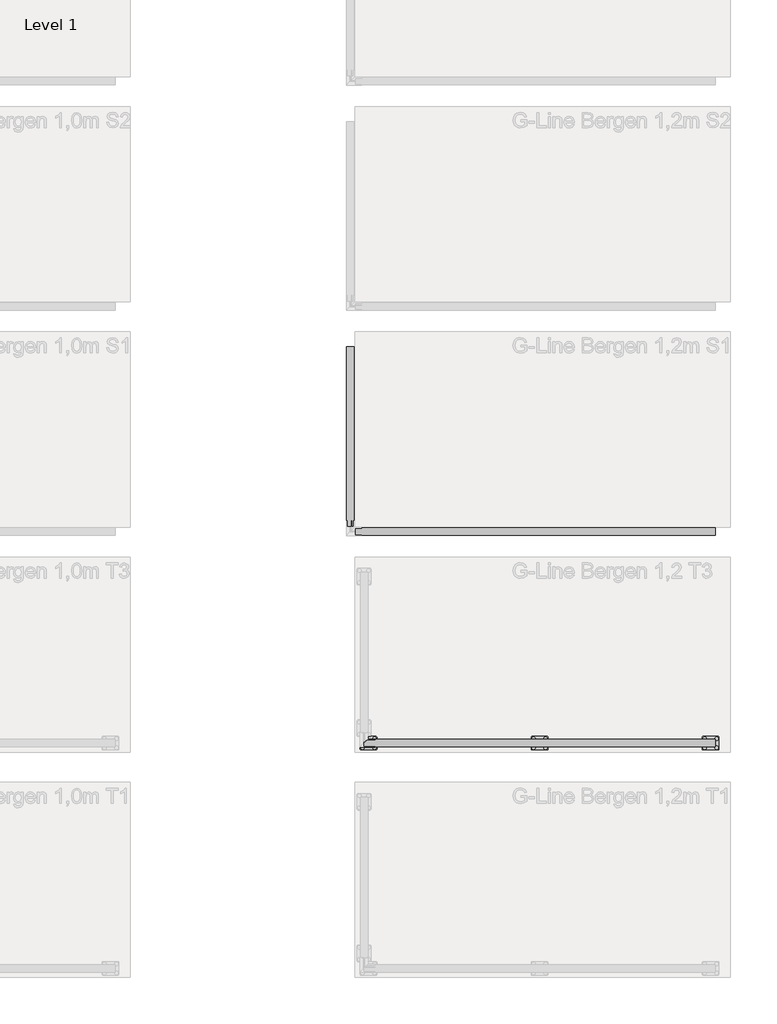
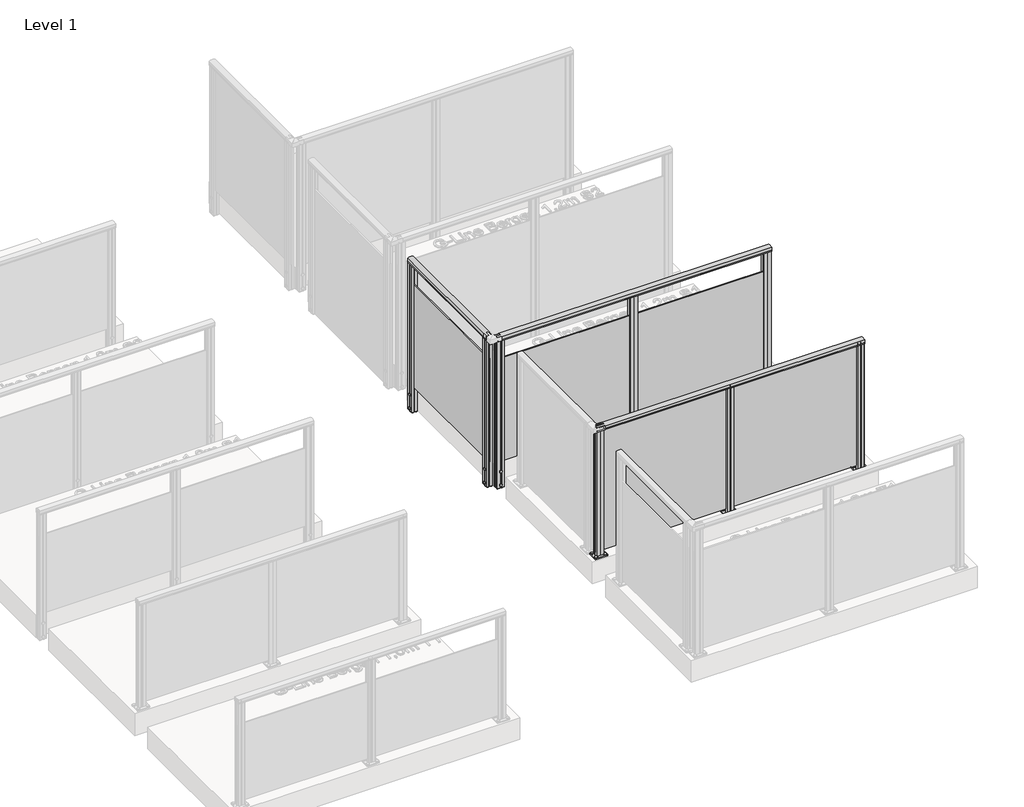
# One storey, part 21 of 66: 3 railings.
"""IFC4 building model written with IfcOpenShell, lengths in millimetres."""

from ifc_helpers import new_model, si_unit, point, frame, frame_2d, origin, origin_with_axes, place, context, project, spatial, polyline, circle_curve, trimmed, segment, composite_curve, outline, extrude, element, save

model = new_model("IFC4")

# Units and contexts
model_context = context("Model", 3, world=origin())
ifc_project = project(units=[si_unit("LENGTHUNIT", "METRE", prefix="MILLI")], contexts=[model_context])

# Site, building, storey
site = spatial("IfcSite", under=ifc_project)
building = spatial("IfcBuilding", under=site)
storey = spatial("IfcBuildingStorey", under=building, Name="Level 1", Elevation=0.0)

# Railings
placement = place(None, origin())
element("IfcRailing", 1, ObjectType="G-Line Bergen 1,2m T3", at=placement, inside=storey, context=model_context, shape_type="SweptSolid", body=[
    extrude(outline(composite_curve([segment(polyline([(-2895.1386257, 1194.1390059), (-2895.1386257, 1167.1990555), (-2895.7534087, 1166.5842725), (-2895.1386257, 1165.9694895), (-2895.1386257, 1157.2498847), (-2896.8984343, 1157.2498847), (-2896.8984343, 1180.4998829), (-2943.8934804, 1180.4998829), (-2943.8934804, 1157.2498847), (-2945.6984333, 1157.2498847), (-2945.6984333, 1165.8194895), (-2945.0763522, 1166.4415706), (-2945.658284, 1167.0235023), (-2945.658284, 1194.1342258)]), True, "CONTINUOUS"), segment(trimmed(circle_curve(frame_2d((-2920.393586, 1142.6785502)), 57.3235687), [point((-2945.658284, 1194.1342258))], [point((-2895.1386257, 1194.1390059))], False, "CARTESIAN"), True, "CONTINUOUS")], self_intersect=False)), frame((8556.5263105, 0.0, 0.0), z_axis=(1.0, 0.0, 0.0), x_axis=(0.0, 1.0, 0.0)), (0.0, 0.0, 1.0), 2340.0),
    extrude(outline(polyline([(8556.5263105, -2925.4984021), (8556.5263105, -2916.7384021), (10896.5263105, -2916.7384021), (10896.5263105, -2925.4984021), (8556.5263105, -2925.4984021)])), frame((0.0, 0.0, 40.0), z_axis=(0.0, 0.0, 1.0), x_axis=(1.0, 0.0, 0.0)), (0.0, 0.0, 1.0), 1140.0),
    extrude(outline(composite_curve([segment(trimmed(circle_curve(frame_2d((9686.5263105, -2951.1184021)), 11.9621755), [point((9686.5263105, -2963.0805775))], [point((9686.5263105, -2939.1562266))], False, "CARTESIAN"), True, "CONTINUOUS"), segment(trimmed(circle_curve(frame_2d((9686.5263105, -2951.1184021)), 11.9621755), [point((9686.5263105, -2939.1562266))], [point((9686.5263105, -2963.0805775))], False, "CARTESIAN"), True, "CONTINUOUS")], self_intersect=False)), frame((0.0, 0.0, 10.0), z_axis=(0.0, 0.0, 1.0), x_axis=(1.0, 0.0, 0.0)), (0.0, 0.0, 1.0), 5.0),
    extrude(outline(composite_curve([segment(trimmed(circle_curve(frame_2d((9686.5263105, -2891.1184021)), 11.9621755), [point((9686.5263105, -2903.0805775))], [point((9686.5263105, -2879.1562266))], False, "CARTESIAN"), True, "CONTINUOUS"), segment(trimmed(circle_curve(frame_2d((9686.5263105, -2891.1184021)), 11.9621755), [point((9686.5263105, -2879.1562266))], [point((9686.5263105, -2903.0805775))], False, "CARTESIAN"), True, "CONTINUOUS")], self_intersect=False)), frame((0.0, 0.0, 10.0), z_axis=(0.0, 0.0, 1.0), x_axis=(1.0, 0.0, 0.0)), (0.0, 0.0, 1.0), 5.0),
    extrude(outline(composite_curve([segment(trimmed(circle_curve(frame_2d((9766.5263105, -2951.1184021)), 11.9621755), [point((9766.5263105, -2963.0805775))], [point((9766.5263105, -2939.1562266))], False, "CARTESIAN"), True, "CONTINUOUS"), segment(trimmed(circle_curve(frame_2d((9766.5263105, -2951.1184021)), 11.9621755), [point((9766.5263105, -2939.1562266))], [point((9766.5263105, -2963.0805775))], False, "CARTESIAN"), True, "CONTINUOUS")], self_intersect=False)), frame((0.0, 0.0, 10.0), z_axis=(0.0, 0.0, 1.0), x_axis=(1.0, 0.0, 0.0)), (0.0, 0.0, 1.0), 5.0),
    extrude(outline(composite_curve([segment(trimmed(circle_curve(frame_2d((9766.5263105, -2891.1184021)), 11.9621755), [point((9766.5263105, -2903.0805775))], [point((9766.5263105, -2879.1562266))], False, "CARTESIAN"), True, "CONTINUOUS"), segment(trimmed(circle_curve(frame_2d((9766.5263105, -2891.1184021)), 11.9621755), [point((9766.5263105, -2879.1562266))], [point((9766.5263105, -2903.0805775))], False, "CARTESIAN"), True, "CONTINUOUS")], self_intersect=False)), frame((0.0, 0.0, 10.0), z_axis=(0.0, 0.0, 1.0), x_axis=(1.0, 0.0, 0.0)), (0.0, 0.0, 1.0), 5.0),
    extrude(outline(composite_curve([segment(trimmed(circle_curve(frame_2d((9676.5263105, -2881.1184021)), 5.0), [point((9671.5263105, -2881.1184021))], [point((9676.5263105, -2876.1184021))], False, "CARTESIAN"), True, "CONTINUOUS"), segment(polyline([(9676.5263105, -2876.1184021), (9776.5263105, -2876.1184021)]), True, "CONTINUOUS"), segment(trimmed(circle_curve(frame_2d((9776.5263105, -2881.1184021)), 5.0), [point((9776.5263105, -2876.1184021))], [point((9781.5263105, -2881.1184021))], False, "CARTESIAN"), True, "CONTINUOUS"), segment(polyline([(9781.5263105, -2881.1184021), (9781.5263105, -2961.1184021)]), True, "CONTINUOUS"), segment(trimmed(circle_curve(frame_2d((9776.5263105, -2961.1184021)), 5.0), [point((9781.5263105, -2961.1184021))], [point((9776.5263105, -2966.1184021))], False, "CARTESIAN"), True, "CONTINUOUS"), segment(polyline([(9776.5263105, -2966.1184021), (9676.5263105, -2966.1184021)]), True, "CONTINUOUS"), segment(trimmed(circle_curve(frame_2d((9676.5263105, -2961.1184021)), 5.0), [point((9676.5263105, -2966.1184021))], [point((9671.5263105, -2961.1184021))], False, "CARTESIAN"), True, "CONTINUOUS"), segment(polyline([(9671.5263105, -2961.1184021), (9671.5263105, -2881.1184021)]), True, "CONTINUOUS")], self_intersect=False), holes=[composite_curve([segment(trimmed(circle_curve(frame_2d((9686.5263105, -2891.1184021)), 6.25), [point((9686.5263105, -2897.3684021))], [point((9686.5263105, -2884.8684021))], True, "CARTESIAN"), True, "CONTINUOUS"), segment(trimmed(circle_curve(frame_2d((9686.5263105, -2891.1184021)), 6.25), [point((9686.5263105, -2884.8684021))], [point((9686.5263105, -2897.3684021))], True, "CARTESIAN"), True, "CONTINUOUS")], self_intersect=False), composite_curve([segment(trimmed(circle_curve(frame_2d((9686.5263105, -2951.1184021)), 6.25), [point((9686.5263105, -2957.3684021))], [point((9686.5263105, -2944.8684021))], True, "CARTESIAN"), True, "CONTINUOUS"), segment(trimmed(circle_curve(frame_2d((9686.5263105, -2951.1184021)), 6.25), [point((9686.5263105, -2944.8684021))], [point((9686.5263105, -2957.3684021))], True, "CARTESIAN"), True, "CONTINUOUS")], self_intersect=False), composite_curve([segment(trimmed(circle_curve(frame_2d((9766.5263105, -2951.1184021)), 6.25), [point((9766.5263105, -2957.3684021))], [point((9766.5263105, -2944.8684021))], True, "CARTESIAN"), True, "CONTINUOUS"), segment(trimmed(circle_curve(frame_2d((9766.5263105, -2951.1184021)), 6.25), [point((9766.5263105, -2944.8684021))], [point((9766.5263105, -2957.3684021))], True, "CARTESIAN"), True, "CONTINUOUS")], self_intersect=False), composite_curve([segment(trimmed(circle_curve(frame_2d((9766.5263105, -2891.1184021)), 6.25), [point((9766.5263105, -2897.3684021))], [point((9766.5263105, -2884.8684021))], True, "CARTESIAN"), True, "CONTINUOUS"), segment(trimmed(circle_curve(frame_2d((9766.5263105, -2891.1184021)), 6.25), [point((9766.5263105, -2884.8684021))], [point((9766.5263105, -2897.3684021))], True, "CARTESIAN"), True, "CONTINUOUS")], self_intersect=False)]), origin_with_axes(), (0.0, 0.0, 1.0), 10.0),
    extrude(outline(polyline([(9756.5247174, -2925.464264), (9756.5273896, -2943.6092639), (9727.5604026, -2943.6135298), (9726.5319584, -2942.5853885), (9725.5438599, -2943.5737781), (9696.5273844, -2943.5780513), (9696.5247181, -2925.4731002), (9714.0247179, -2925.470523), (9714.0234278, -2916.7105231), (9696.523428, -2916.7131003), (9696.5207632, -2898.6181005), (9725.4877501, -2898.6138345), (9726.525618, -2899.5321669), (9727.4037815, -2898.6537448), (9756.5207684, -2898.6494567), (9756.5234273, -2916.7042641), (9739.0234275, -2916.7068414), (9739.0247176, -2925.4668413), (9756.5247174, -2925.464264)]), holes=[polyline([(9717.7270955, -2900.6123864), (9717.7270955, -2941.6149779), (9735.3210573, -2941.6149779), (9735.3210573, -2900.6123864), (9717.7270955, -2900.6123864)]), polyline([(9698.5270957, -2927.4702726), (9698.5270957, -2941.6178055), (9715.7250124, -2941.6178055), (9715.7250124, -2927.4702726), (9698.5270957, -2927.4702726)]), polyline([(9698.5231335, -2900.6123864), (9698.5231335, -2914.7128058), (9715.7210571, -2914.7128058), (9715.7210571, -2900.6123864), (9698.5231335, -2900.6123864)]), polyline([(9737.3270953, -2927.4645586), (9737.3270953, -2941.6120914), (9754.525012, -2941.6120914), (9754.525012, -2927.4645586), (9737.3270953, -2927.4645586)]), polyline([(9737.323133, -2900.5595589), (9737.323133, -2914.7070917), (9754.5210497, -2914.7070917), (9754.5210497, -2900.5595589), (9737.323133, -2900.5595589)])]), frame((0.0, 0.0, 10.0), z_axis=(0.0, 0.0, 1.0), x_axis=(1.0, 0.0, 0.0)), (0.0, 0.0, 1.0), 1171.0),
    extrude(outline(composite_curve([segment(trimmed(circle_curve(frame_2d((10826.5263105, -2951.1184021)), 11.9621755), [point((10826.5263105, -2963.0805775))], [point((10826.5263105, -2939.1562266))], False, "CARTESIAN"), True, "CONTINUOUS"), segment(trimmed(circle_curve(frame_2d((10826.5263105, -2951.1184021)), 11.9621755), [point((10826.5263105, -2939.1562266))], [point((10826.5263105, -2963.0805775))], False, "CARTESIAN"), True, "CONTINUOUS")], self_intersect=False)), frame((0.0, 0.0, 10.0), z_axis=(0.0, 0.0, 1.0), x_axis=(1.0, 0.0, 0.0)), (0.0, 0.0, 1.0), 5.0),
    extrude(outline(composite_curve([segment(trimmed(circle_curve(frame_2d((10826.5263105, -2891.1184021)), 11.9621755), [point((10826.5263105, -2903.0805775))], [point((10826.5263105, -2879.1562266))], False, "CARTESIAN"), True, "CONTINUOUS"), segment(trimmed(circle_curve(frame_2d((10826.5263105, -2891.1184021)), 11.9621755), [point((10826.5263105, -2879.1562266))], [point((10826.5263105, -2903.0805775))], False, "CARTESIAN"), True, "CONTINUOUS")], self_intersect=False)), frame((0.0, 0.0, 10.0), z_axis=(0.0, 0.0, 1.0), x_axis=(1.0, 0.0, 0.0)), (0.0, 0.0, 1.0), 5.0),
    extrude(outline(composite_curve([segment(trimmed(circle_curve(frame_2d((10906.5263105, -2951.1184021)), 11.9621755), [point((10906.5263105, -2963.0805775))], [point((10906.5263105, -2939.1562266))], False, "CARTESIAN"), True, "CONTINUOUS"), segment(trimmed(circle_curve(frame_2d((10906.5263105, -2951.1184021)), 11.9621755), [point((10906.5263105, -2939.1562266))], [point((10906.5263105, -2963.0805775))], False, "CARTESIAN"), True, "CONTINUOUS")], self_intersect=False)), frame((0.0, 0.0, 10.0), z_axis=(0.0, 0.0, 1.0), x_axis=(1.0, 0.0, 0.0)), (0.0, 0.0, 1.0), 5.0),
    extrude(outline(composite_curve([segment(trimmed(circle_curve(frame_2d((10906.5263105, -2891.1184021)), 11.9621755), [point((10906.5263105, -2903.0805775))], [point((10906.5263105, -2879.1562266))], False, "CARTESIAN"), True, "CONTINUOUS"), segment(trimmed(circle_curve(frame_2d((10906.5263105, -2891.1184021)), 11.9621755), [point((10906.5263105, -2879.1562266))], [point((10906.5263105, -2903.0805775))], False, "CARTESIAN"), True, "CONTINUOUS")], self_intersect=False)), frame((0.0, 0.0, 10.0), z_axis=(0.0, 0.0, 1.0), x_axis=(1.0, 0.0, 0.0)), (0.0, 0.0, 1.0), 5.0),
    extrude(outline(composite_curve([segment(trimmed(circle_curve(frame_2d((10816.5263105, -2881.1184021)), 5.0), [point((10811.5263105, -2881.1184021))], [point((10816.5263105, -2876.1184021))], False, "CARTESIAN"), True, "CONTINUOUS"), segment(polyline([(10816.5263105, -2876.1184021), (10916.5263105, -2876.1184021)]), True, "CONTINUOUS"), segment(trimmed(circle_curve(frame_2d((10916.5263105, -2881.1184021)), 5.0), [point((10916.5263105, -2876.1184021))], [point((10921.5263105, -2881.1184021))], False, "CARTESIAN"), True, "CONTINUOUS"), segment(polyline([(10921.5263105, -2881.1184021), (10921.5263105, -2961.1184021)]), True, "CONTINUOUS"), segment(trimmed(circle_curve(frame_2d((10916.5263105, -2961.1184021)), 5.0), [point((10921.5263105, -2961.1184021))], [point((10916.5263105, -2966.1184021))], False, "CARTESIAN"), True, "CONTINUOUS"), segment(polyline([(10916.5263105, -2966.1184021), (10816.5263105, -2966.1184021)]), True, "CONTINUOUS"), segment(trimmed(circle_curve(frame_2d((10816.5263105, -2961.1184021)), 5.0), [point((10816.5263105, -2966.1184021))], [point((10811.5263105, -2961.1184021))], False, "CARTESIAN"), True, "CONTINUOUS"), segment(polyline([(10811.5263105, -2961.1184021), (10811.5263105, -2881.1184021)]), True, "CONTINUOUS")], self_intersect=False), holes=[composite_curve([segment(trimmed(circle_curve(frame_2d((10826.5263105, -2891.1184021)), 6.25), [point((10826.5263105, -2897.3684021))], [point((10826.5263105, -2884.8684021))], True, "CARTESIAN"), True, "CONTINUOUS"), segment(trimmed(circle_curve(frame_2d((10826.5263105, -2891.1184021)), 6.25), [point((10826.5263105, -2884.8684021))], [point((10826.5263105, -2897.3684021))], True, "CARTESIAN"), True, "CONTINUOUS")], self_intersect=False), composite_curve([segment(trimmed(circle_curve(frame_2d((10826.5263105, -2951.1184021)), 6.25), [point((10826.5263105, -2957.3684021))], [point((10826.5263105, -2944.8684021))], True, "CARTESIAN"), True, "CONTINUOUS"), segment(trimmed(circle_curve(frame_2d((10826.5263105, -2951.1184021)), 6.25), [point((10826.5263105, -2944.8684021))], [point((10826.5263105, -2957.3684021))], True, "CARTESIAN"), True, "CONTINUOUS")], self_intersect=False), composite_curve([segment(trimmed(circle_curve(frame_2d((10906.5263105, -2951.1184021)), 6.25), [point((10906.5263105, -2957.3684021))], [point((10906.5263105, -2944.8684021))], True, "CARTESIAN"), True, "CONTINUOUS"), segment(trimmed(circle_curve(frame_2d((10906.5263105, -2951.1184021)), 6.25), [point((10906.5263105, -2944.8684021))], [point((10906.5263105, -2957.3684021))], True, "CARTESIAN"), True, "CONTINUOUS")], self_intersect=False), composite_curve([segment(trimmed(circle_curve(frame_2d((10906.5263105, -2891.1184021)), 6.25), [point((10906.5263105, -2897.3684021))], [point((10906.5263105, -2884.8684021))], True, "CARTESIAN"), True, "CONTINUOUS"), segment(trimmed(circle_curve(frame_2d((10906.5263105, -2891.1184021)), 6.25), [point((10906.5263105, -2884.8684021))], [point((10906.5263105, -2897.3684021))], True, "CARTESIAN"), True, "CONTINUOUS")], self_intersect=False)]), origin_with_axes(), (0.0, 0.0, 1.0), 10.0),
    extrude(outline(polyline([(10896.5247174, -2925.4642641), (10896.5273896, -2943.6092639), (10867.5604026, -2943.6135298), (10866.5319584, -2942.5853885), (10865.5438599, -2943.5737781), (10836.5273844, -2943.5780513), (10836.5247181, -2925.4731002), (10854.0247179, -2925.470523), (10854.0234278, -2916.7105231), (10836.523428, -2916.7131003), (10836.5207632, -2898.6181005), (10865.4877501, -2898.6138345), (10866.525618, -2899.5321669), (10867.4037815, -2898.6537448), (10896.5207684, -2898.6494567), (10896.5234273, -2916.7042641), (10879.0234275, -2916.7068414), (10879.0247176, -2925.4668413), (10896.5247174, -2925.4642641)]), holes=[polyline([(10857.7270955, -2900.6123864), (10857.7270955, -2941.6149779), (10875.3210573, -2941.6149779), (10875.3210573, -2900.6123864), (10857.7270955, -2900.6123864)]), polyline([(10838.5270957, -2927.4702726), (10838.5270957, -2941.6178055), (10855.7250124, -2941.6178055), (10855.7250124, -2927.4702726), (10838.5270957, -2927.4702726)]), polyline([(10838.5231335, -2900.6123864), (10838.5231335, -2914.7128058), (10855.7210571, -2914.7128058), (10855.7210571, -2900.6123864), (10838.5231335, -2900.6123864)]), polyline([(10877.3270953, -2927.4645586), (10877.3270953, -2941.6120914), (10894.525012, -2941.6120914), (10894.525012, -2927.4645586), (10877.3270953, -2927.4645586)]), polyline([(10877.323133, -2900.5595589), (10877.323133, -2914.7070917), (10894.5210497, -2914.7070917), (10894.5210497, -2900.5595589), (10877.323133, -2900.5595589)])]), frame((0.0, 0.0, 10.0), z_axis=(0.0, 0.0, 1.0), x_axis=(1.0, 0.0, 0.0)), (0.0, 0.0, 1.0), 1171.0),
    extrude(outline(composite_curve([segment(trimmed(circle_curve(frame_2d((8546.5263105, -2951.1184021)), 11.9621755), [point((8546.5263105, -2963.0805775))], [point((8546.5263105, -2939.1562266))], False, "CARTESIAN"), True, "CONTINUOUS"), segment(trimmed(circle_curve(frame_2d((8546.5263105, -2951.1184021)), 11.9621755), [point((8546.5263105, -2939.1562266))], [point((8546.5263105, -2963.0805775))], False, "CARTESIAN"), True, "CONTINUOUS")], self_intersect=False)), frame((0.0, 0.0, 10.0), z_axis=(0.0, 0.0, 1.0), x_axis=(1.0, 0.0, 0.0)), (0.0, 0.0, 1.0), 5.0),
    extrude(outline(composite_curve([segment(trimmed(circle_curve(frame_2d((8546.5263105, -2891.1184021)), 11.9621755), [point((8546.5263105, -2903.0805775))], [point((8546.5263105, -2879.1562266))], False, "CARTESIAN"), True, "CONTINUOUS"), segment(trimmed(circle_curve(frame_2d((8546.5263105, -2891.1184021)), 11.9621755), [point((8546.5263105, -2879.1562266))], [point((8546.5263105, -2903.0805775))], False, "CARTESIAN"), True, "CONTINUOUS")], self_intersect=False)), frame((0.0, 0.0, 10.0), z_axis=(0.0, 0.0, 1.0), x_axis=(1.0, 0.0, 0.0)), (0.0, 0.0, 1.0), 5.0),
    extrude(outline(composite_curve([segment(trimmed(circle_curve(frame_2d((8626.5263105, -2951.1184021)), 11.9621755), [point((8626.5263105, -2963.0805775))], [point((8626.5263105, -2939.1562266))], False, "CARTESIAN"), True, "CONTINUOUS"), segment(trimmed(circle_curve(frame_2d((8626.5263105, -2951.1184021)), 11.9621755), [point((8626.5263105, -2939.1562266))], [point((8626.5263105, -2963.0805775))], False, "CARTESIAN"), True, "CONTINUOUS")], self_intersect=False)), frame((0.0, 0.0, 10.0), z_axis=(0.0, 0.0, 1.0), x_axis=(1.0, 0.0, 0.0)), (0.0, 0.0, 1.0), 5.0),
    extrude(outline(composite_curve([segment(trimmed(circle_curve(frame_2d((8626.5263105, -2891.1184021)), 11.9621755), [point((8626.5263105, -2903.0805775))], [point((8626.5263105, -2879.1562266))], False, "CARTESIAN"), True, "CONTINUOUS"), segment(trimmed(circle_curve(frame_2d((8626.5263105, -2891.1184021)), 11.9621755), [point((8626.5263105, -2879.1562266))], [point((8626.5263105, -2903.0805775))], False, "CARTESIAN"), True, "CONTINUOUS")], self_intersect=False)), frame((0.0, 0.0, 10.0), z_axis=(0.0, 0.0, 1.0), x_axis=(1.0, 0.0, 0.0)), (0.0, 0.0, 1.0), 5.0),
    extrude(outline(composite_curve([segment(trimmed(circle_curve(frame_2d((8536.5263105, -2881.1184021)), 5.0), [point((8531.5263105, -2881.1184021))], [point((8536.5263105, -2876.1184021))], False, "CARTESIAN"), True, "CONTINUOUS"), segment(polyline([(8536.5263105, -2876.1184021), (8636.5263105, -2876.1184021)]), True, "CONTINUOUS"), segment(trimmed(circle_curve(frame_2d((8636.5263105, -2881.1184021)), 5.0), [point((8636.5263105, -2876.1184021))], [point((8641.5263105, -2881.1184021))], False, "CARTESIAN"), True, "CONTINUOUS"), segment(polyline([(8641.5263105, -2881.1184021), (8641.5263105, -2961.1184021)]), True, "CONTINUOUS"), segment(trimmed(circle_curve(frame_2d((8636.5263105, -2961.1184021)), 5.0), [point((8641.5263105, -2961.1184021))], [point((8636.5263105, -2966.1184021))], False, "CARTESIAN"), True, "CONTINUOUS"), segment(polyline([(8636.5263105, -2966.1184021), (8536.5263105, -2966.1184021)]), True, "CONTINUOUS"), segment(trimmed(circle_curve(frame_2d((8536.5263105, -2961.1184021)), 5.0), [point((8536.5263105, -2966.1184021))], [point((8531.5263105, -2961.1184021))], False, "CARTESIAN"), True, "CONTINUOUS"), segment(polyline([(8531.5263105, -2961.1184021), (8531.5263105, -2881.1184021)]), True, "CONTINUOUS")], self_intersect=False), holes=[composite_curve([segment(trimmed(circle_curve(frame_2d((8546.5263105, -2891.1184021)), 6.25), [point((8546.5263105, -2897.3684021))], [point((8546.5263105, -2884.8684021))], True, "CARTESIAN"), True, "CONTINUOUS"), segment(trimmed(circle_curve(frame_2d((8546.5263105, -2891.1184021)), 6.25), [point((8546.5263105, -2884.8684021))], [point((8546.5263105, -2897.3684021))], True, "CARTESIAN"), True, "CONTINUOUS")], self_intersect=False), composite_curve([segment(trimmed(circle_curve(frame_2d((8546.5263105, -2951.1184021)), 6.25), [point((8546.5263105, -2957.3684021))], [point((8546.5263105, -2944.8684021))], True, "CARTESIAN"), True, "CONTINUOUS"), segment(trimmed(circle_curve(frame_2d((8546.5263105, -2951.1184021)), 6.25), [point((8546.5263105, -2944.8684021))], [point((8546.5263105, -2957.3684021))], True, "CARTESIAN"), True, "CONTINUOUS")], self_intersect=False), composite_curve([segment(trimmed(circle_curve(frame_2d((8626.5263105, -2951.1184021)), 6.25), [point((8626.5263105, -2957.3684021))], [point((8626.5263105, -2944.8684021))], True, "CARTESIAN"), True, "CONTINUOUS"), segment(trimmed(circle_curve(frame_2d((8626.5263105, -2951.1184021)), 6.25), [point((8626.5263105, -2944.8684021))], [point((8626.5263105, -2957.3684021))], True, "CARTESIAN"), True, "CONTINUOUS")], self_intersect=False), composite_curve([segment(trimmed(circle_curve(frame_2d((8626.5263105, -2891.1184021)), 6.25), [point((8626.5263105, -2897.3684021))], [point((8626.5263105, -2884.8684021))], True, "CARTESIAN"), True, "CONTINUOUS"), segment(trimmed(circle_curve(frame_2d((8626.5263105, -2891.1184021)), 6.25), [point((8626.5263105, -2884.8684021))], [point((8626.5263105, -2897.3684021))], True, "CARTESIAN"), True, "CONTINUOUS")], self_intersect=False)]), origin_with_axes(), (0.0, 0.0, 1.0), 10.0),
    extrude(outline(polyline([(8616.5247174, -2925.464264), (8616.5273896, -2943.6092639), (8587.5604026, -2943.6135298), (8586.5319584, -2942.5853885), (8585.5438599, -2943.5737781), (8556.5273844, -2943.5780513), (8556.5247181, -2925.4731002), (8574.0247179, -2925.470523), (8574.0234278, -2916.7105231), (8556.523428, -2916.7131003), (8556.5207632, -2898.6181005), (8585.4877501, -2898.6138345), (8586.525618, -2899.5321669), (8587.4037815, -2898.6537448), (8616.5207684, -2898.6494567), (8616.5234273, -2916.7042641), (8599.0234275, -2916.7068413), (8599.0247176, -2925.4668413), (8616.5247174, -2925.464264)]), holes=[polyline([(8577.7270955, -2900.6123864), (8577.7270955, -2941.6149779), (8595.3210573, -2941.6149779), (8595.3210573, -2900.6123864), (8577.7270955, -2900.6123864)]), polyline([(8558.5270957, -2927.4702726), (8558.5270957, -2941.6178055), (8575.7250124, -2941.6178055), (8575.7250124, -2927.4702726), (8558.5270957, -2927.4702726)]), polyline([(8558.5231335, -2900.6123864), (8558.5231335, -2914.7128058), (8575.7210571, -2914.7128058), (8575.7210571, -2900.6123864), (8558.5231335, -2900.6123864)]), polyline([(8597.3270953, -2927.4645586), (8597.3270953, -2941.6120914), (8614.525012, -2941.6120914), (8614.525012, -2927.4645586), (8597.3270953, -2927.4645586)]), polyline([(8597.323133, -2900.5595589), (8597.323133, -2914.7070917), (8614.5210497, -2914.7070917), (8614.5210497, -2900.5595589), (8597.323133, -2900.5595589)])]), frame((0.0, 0.0, 10.0), z_axis=(0.0, 0.0, 1.0), x_axis=(1.0, 0.0, 0.0)), (0.0, 0.0, 1.0), 1171.0),
])
element("IfcRailing", 2, ObjectType="G-Line Bergen 1,2m S1", at=placement, inside=storey, context=model_context, shape_type="SweptSolid", body=[
    extrude(outline(composite_curve([segment(trimmed(circle_curve(frame_2d((1142.6785502, 8465.8109342)), 57.3235687), [point((1194.1390059, 8491.0658945))], [point((1194.1342258, 8440.5462362))], False, "CARTESIAN"), True, "CONTINUOUS"), segment(polyline([(1194.1342258, 8440.5462362), (1167.0235023, 8440.5462362), (1166.4415706, 8441.128168), (1165.8194895, 8440.5060869), (1157.2498847, 8440.5060869), (1157.2498847, 8442.3110398), (1180.4998829, 8442.3110398), (1180.4998829, 8489.306086), (1157.2498847, 8489.306086), (1157.2498847, 8491.0658945), (1165.9694895, 8491.0658945), (1166.5842725, 8490.4511115), (1167.1990555, 8491.0658945), (1194.1390059, 8491.0658945)]), True, "CONTINUOUS")], self_intersect=False)), frame((0.0, -1476.1184021, 0.0), z_axis=(0.0, 1.0, 0.0), x_axis=(0.0, 0.0, 1.0)), (0.0, 0.0, 1.0), 1195.0),
    extrude(outline(polyline([(8462.1463105, -281.1184021), (8470.9063105, -281.1184021), (8470.9063105, -1476.1184021), (8462.1463105, -1476.1184021), (8462.1463105, -281.1184021)])), frame((0.0, 0.0, 28.0), z_axis=(0.0, 0.0, 1.0), x_axis=(1.0, 0.0, 0.0)), (0.0, 0.0, 1.0), 952.0),
    extrude(outline(polyline([(8470.8721725, -1476.116809), (8470.8747497, -1458.6168092), (8462.1147498, -1458.6155191), (8462.1121726, -1476.1155189), (8444.0573652, -1476.11286), (8444.0616532, -1446.995873), (8444.9400753, -1446.1177096), (8444.021743, -1445.0798417), (8444.0260089, -1416.1128548), (8462.1210087, -1416.1155196), (8462.1184315, -1433.6155194), (8470.8784314, -1433.6168095), (8470.8810086, -1416.1168097), (8488.9859597, -1416.119476), (8488.9816865, -1445.1359515), (8487.9932969, -1446.12405), (8489.0214382, -1447.1524942), (8489.0171723, -1476.1194812), (8470.8721725, -1476.116809)]), holes=[polyline([(8446.0202949, -1437.3191871), (8446.0202949, -1454.9131488), (8487.0228863, -1454.9131488), (8487.0228863, -1437.3191871), (8446.0202949, -1437.3191871)]), polyline([(8472.878181, -1418.1191873), (8472.878181, -1435.317104), (8487.0257139, -1435.317104), (8487.0257139, -1418.1191873), (8472.878181, -1418.1191873)]), polyline([(8446.0202949, -1418.115225), (8446.0202949, -1435.3131487), (8460.1207142, -1435.3131487), (8460.1207142, -1418.115225), (8446.0202949, -1418.115225)]), polyline([(8472.872467, -1456.9191868), (8472.872467, -1474.1171035), (8487.0199999, -1474.1171035), (8487.0199999, -1456.9191868), (8472.872467, -1456.9191868)]), polyline([(8445.9674673, -1456.9152246), (8445.9674673, -1474.1131413), (8460.1150002, -1474.1131413), (8460.1150002, -1456.9152246), (8445.9674673, -1456.9152246)])]), frame((0.0, 0.0, -200.0), z_axis=(0.0, 0.0, 1.0), x_axis=(1.0, 0.0, 0.0)), (0.0, 0.0, 1.0), 1381.0),
    extrude(outline(polyline([(8470.8721725, -1476.116809), (8470.8747497, -1458.6168092), (8462.1147498, -1458.6155191), (8462.1121726, -1476.1155189), (8444.0573652, -1476.11286), (8444.0616532, -1446.995873), (8444.9400753, -1446.1177096), (8444.021743, -1445.0798417), (8444.0260089, -1416.1128548), (8462.1210087, -1416.1155196), (8462.1184315, -1433.6155194), (8470.8784314, -1433.6168095), (8470.8810086, -1416.1168097), (8488.9859597, -1416.119476), (8488.9816865, -1445.1359515), (8487.9932969, -1446.12405), (8489.0214382, -1447.1524942), (8489.0171723, -1476.1194812), (8470.8721725, -1476.116809)])), frame((0.0, 0.0, -202.0233958), z_axis=(0.0, 0.0, 1.0), x_axis=(1.0, 0.0, 0.0)), (0.0, 0.0, 1.0), 2.0),
    extrude(outline(composite_curve([segment(trimmed(circle_curve(frame_2d((0.0, 12.0)), 12.0), [point((0.0, 23.9999999))], [point((0.0, 0.0))], False, "CARTESIAN"), True, "CONTINUOUS"), segment(trimmed(circle_curve(frame_2d((0.0, 12.0)), 12.0), [point((0.0, 0.0))], [point((0.0, 23.9999999))], False, "CARTESIAN"), True, "CONTINUOUS")], self_intersect=False)), frame((8444.0668454, -1434.1093645, -175.0), z_axis=(-0.9999999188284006, 0.0004029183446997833, 0.0), x_axis=(0.0, 0.0, -1.0)), (0.0, 0.0, 1.0), 3.0757477),
    extrude(outline(composite_curve([segment(trimmed(circle_curve(frame_2d((0.0, 12.0)), 12.0), [point((0.0, 23.9999999))], [point((0.0, 0.0))], False, "CARTESIAN"), True, "CONTINUOUS"), segment(trimmed(circle_curve(frame_2d((0.0, 12.0)), 12.0), [point((0.0, 0.0))], [point((0.0, 23.9999999))], False, "CARTESIAN"), True, "CONTINUOUS")], self_intersect=False)), frame((8444.0668454, -1434.1093645, -50.0), z_axis=(-0.9999999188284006, 0.0004029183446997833, 0.0), x_axis=(0.0, 0.0, -1.0)), (0.0, 0.0, 1.0), 3.0757477),
    extrude(outline(polyline([(8470.8721725, -341.116809), (8470.8747497, -323.6168092), (8462.1147498, -323.6155191), (8462.1121726, -341.1155189), (8444.0573652, -341.11286), (8444.0616532, -311.995873), (8444.9400753, -311.1177096), (8444.021743, -310.0798417), (8444.0260089, -281.1128548), (8462.1210087, -281.1155196), (8462.1184315, -298.6155194), (8470.8784314, -298.6168095), (8470.8810086, -281.1168097), (8488.9859597, -281.119476), (8488.9816865, -310.1359515), (8487.9932969, -311.12405), (8489.0214382, -312.1524942), (8489.0171723, -341.1194812), (8470.8721725, -341.116809)]), holes=[polyline([(8446.0202949, -302.3191871), (8446.0202949, -319.9131488), (8487.0228863, -319.9131488), (8487.0228863, -302.3191871), (8446.0202949, -302.3191871)]), polyline([(8472.878181, -283.1191873), (8472.878181, -300.317104), (8487.0257139, -300.317104), (8487.0257139, -283.1191873), (8472.878181, -283.1191873)]), polyline([(8446.0202949, -283.115225), (8446.0202949, -300.3131487), (8460.1207142, -300.3131487), (8460.1207142, -283.115225), (8446.0202949, -283.115225)]), polyline([(8472.872467, -321.9191868), (8472.872467, -339.1171035), (8487.0199999, -339.1171035), (8487.0199999, -321.9191868), (8472.872467, -321.9191868)]), polyline([(8445.9674673, -321.9152246), (8445.9674673, -339.1131413), (8460.1150002, -339.1131413), (8460.1150002, -321.9152246), (8445.9674673, -321.9152246)])]), frame((0.0, 0.0, -200.0), z_axis=(0.0, 0.0, 1.0), x_axis=(1.0, 0.0, 0.0)), (0.0, 0.0, 1.0), 1381.0),
    extrude(outline(polyline([(8470.8721725, -341.116809), (8470.8747497, -323.6168092), (8462.1147498, -323.6155191), (8462.1121726, -341.1155189), (8444.0573652, -341.11286), (8444.0616532, -311.995873), (8444.9400753, -311.1177096), (8444.021743, -310.0798417), (8444.0260089, -281.1128548), (8462.1210087, -281.1155196), (8462.1184315, -298.6155194), (8470.8784314, -298.6168095), (8470.8810086, -281.1168097), (8488.9859597, -281.119476), (8488.9816865, -310.1359515), (8487.9932969, -311.12405), (8489.0214382, -312.1524942), (8489.0171723, -341.1194812), (8470.8721725, -341.116809)])), frame((0.0, 0.0, -202.0233958), z_axis=(0.0, 0.0, 1.0), x_axis=(1.0, 0.0, 0.0)), (0.0, 0.0, 1.0), 2.0),
    extrude(outline(composite_curve([segment(trimmed(circle_curve(frame_2d((0.0, 12.0)), 12.0), [point((0.0, 23.9999999))], [point((0.0, 0.0))], False, "CARTESIAN"), True, "CONTINUOUS"), segment(trimmed(circle_curve(frame_2d((0.0, 12.0)), 12.0), [point((0.0, 0.0))], [point((0.0, 23.9999999))], False, "CARTESIAN"), True, "CONTINUOUS")], self_intersect=False)), frame((8444.0668454, -299.1093645, -175.0), z_axis=(-0.9999999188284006, 0.0004029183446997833, 0.0), x_axis=(0.0, 0.0, -1.0)), (0.0, 0.0, 1.0), 3.0757477),
    extrude(outline(composite_curve([segment(trimmed(circle_curve(frame_2d((0.0, 12.0)), 12.0), [point((0.0, 23.9999999))], [point((0.0, 0.0))], False, "CARTESIAN"), True, "CONTINUOUS"), segment(trimmed(circle_curve(frame_2d((0.0, 12.0)), 12.0), [point((0.0, 0.0))], [point((0.0, 23.9999999))], False, "CARTESIAN"), True, "CONTINUOUS")], self_intersect=False)), frame((8444.0668454, -299.1093645, -50.0), z_axis=(-0.9999999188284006, 0.0004029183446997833, 0.0), x_axis=(0.0, 0.0, -1.0)), (0.0, 0.0, 1.0), 3.0757477),
])
element("IfcRailing", 3, ObjectType="G-Line Bergen 1,2m S1", at=placement, inside=storey, context=model_context, shape_type="SweptSolid", body=[
    extrude(outline(composite_curve([segment(polyline([(-1486.5788181, 1194.1390059), (-1486.5788181, 1167.1990555), (-1487.1936011, 1166.5842725), (-1486.5788181, 1165.9694895), (-1486.5788181, 1157.2498847), (-1488.3386266, 1157.2498847), (-1488.3386266, 1180.4998829), (-1535.3336728, 1180.4998829), (-1535.3336728, 1157.2498847), (-1537.1386257, 1157.2498847), (-1537.1386257, 1165.8194895), (-1536.5165446, 1166.4415706), (-1537.0984763, 1167.0235023), (-1537.0984763, 1194.1342258)]), True, "CONTINUOUS"), segment(trimmed(circle_curve(frame_2d((-1511.8337784, 1142.6785502)), 57.3235687), [point((-1537.0984763, 1194.1342258))], [point((-1486.5788181, 1194.1390059))], False, "CARTESIAN"), True, "CONTINUOUS")], self_intersect=False)), frame((8501.5263105, 0.0, 0.0), z_axis=(1.0, 0.0, 0.0), x_axis=(0.0, 1.0, 0.0)), (0.0, 0.0, 1.0), 2395.0),
    extrude(outline(polyline([(8501.5263105, -1515.4984021), (8501.5263105, -1506.7384021), (10896.5263105, -1506.7384021), (10896.5263105, -1515.4984021), (8501.5263105, -1515.4984021)])), frame((0.0, 0.0, 28.0), z_axis=(0.0, 0.0, 1.0), x_axis=(1.0, 0.0, 0.0)), (0.0, 0.0, 1.0), 952.0),
    extrude(outline(polyline([(9729.0247174, -1506.7725401), (9711.5247176, -1506.7699629), (9711.5234275, -1515.5299628), (9729.0234273, -1515.53254), (9729.0207684, -1533.5873474), (9699.9037815, -1533.5830594), (9699.025618, -1532.7046373), (9697.9877501, -1533.6229696), (9669.0207632, -1533.6187037), (9669.023428, -1515.5237039), (9686.5234278, -1515.5262811), (9686.5247179, -1506.7662812), (9669.0247181, -1506.763704), (9669.0273844, -1488.6587529), (9698.0438599, -1488.6630261), (9699.0319584, -1489.6514157), (9700.0604026, -1488.6232744), (9729.0273896, -1488.6275403), (9729.0247174, -1506.7725401)]), holes=[polyline([(9690.2270955, -1531.6244177), (9707.8210573, -1531.6244177), (9707.8210573, -1490.6218262), (9690.2270955, -1490.6218262), (9690.2270955, -1531.6244177)]), polyline([(9671.0270957, -1504.7665316), (9688.2250124, -1504.7665316), (9688.2250124, -1490.6189987), (9671.0270957, -1490.6189987), (9671.0270957, -1504.7665316)]), polyline([(9671.0231335, -1531.6244177), (9688.2210571, -1531.6244177), (9688.2210571, -1517.5239984), (9671.0231335, -1517.5239984), (9671.0231335, -1531.6244177)]), polyline([(9709.8270953, -1504.7722456), (9727.025012, -1504.7722456), (9727.025012, -1490.6247127), (9709.8270953, -1490.6247127), (9709.8270953, -1504.7722456)]), polyline([(9709.823133, -1531.6772453), (9727.0210497, -1531.6772453), (9727.0210497, -1517.5297124), (9709.823133, -1517.5297124), (9709.823133, -1531.6772453)])]), frame((0.0, 0.0, -200.0), z_axis=(0.0, 0.0, 1.0), x_axis=(1.0, 0.0, 0.0)), (0.0, 0.0, 1.0), 1381.0),
    extrude(outline(polyline([(9729.0247174, -1506.7725401), (9711.5247176, -1506.7699629), (9711.5234275, -1515.5299628), (9729.0234273, -1515.53254), (9729.0207684, -1533.5873474), (9699.9037815, -1533.5830594), (9699.025618, -1532.7046373), (9697.9877501, -1533.6229696), (9669.0207632, -1533.6187037), (9669.023428, -1515.5237039), (9686.5234278, -1515.5262811), (9686.5247179, -1506.7662812), (9669.0247181, -1506.763704), (9669.0273844, -1488.6587529), (9698.0438599, -1488.6630261), (9699.0319584, -1489.6514157), (9700.0604026, -1488.6232744), (9729.0273896, -1488.6275403), (9729.0247174, -1506.7725401)])), frame((0.0, 0.0, -202.0233958), z_axis=(0.0, 0.0, 1.0), x_axis=(1.0, 0.0, 0.0)), (0.0, 0.0, 1.0), 2.0),
    extrude(outline(composite_curve([segment(trimmed(circle_curve(frame_2d((0.0, 12.0000001)), 12.0), [point((0.0, 24.0))], [point((0.0, 0.0))], False, "CARTESIAN"), True, "CONTINUOUS"), segment(trimmed(circle_curve(frame_2d((0.0, 12.0000001)), 12.0), [point((0.0, 0.0))], [point((0.0, 24.0))], False, "CARTESIAN"), True, "CONTINUOUS")], self_intersect=False)), frame((9687.0160336, -1536.6536146, -175.0), z_axis=(0.00040291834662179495, 0.9999999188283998, 0.0), x_axis=(0.0, 0.0, 1.0)), (0.0, 0.0, 1.0), 3.0757477),
    extrude(outline(composite_curve([segment(trimmed(circle_curve(frame_2d((0.0, 12.0000001)), 12.0), [point((0.0, 24.0))], [point((0.0, 0.0))], False, "CARTESIAN"), True, "CONTINUOUS"), segment(trimmed(circle_curve(frame_2d((0.0, 12.0000001)), 12.0), [point((0.0, 0.0))], [point((0.0, 24.0))], False, "CARTESIAN"), True, "CONTINUOUS")], self_intersect=False)), frame((9687.0160336, -1536.6536146, -50.0), z_axis=(0.00040291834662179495, 0.9999999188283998, 0.0), x_axis=(0.0, 0.0, 1.0)), (0.0, 0.0, 1.0), 3.0757477),
    extrude(outline(polyline([(10896.5247174, -1506.7725401), (10879.0247176, -1506.7699629), (10879.0234275, -1515.5299628), (10896.5234273, -1515.53254), (10896.5207684, -1533.5873474), (10867.4037815, -1533.5830594), (10866.525618, -1532.7046373), (10865.4877501, -1533.6229696), (10836.5207632, -1533.6187037), (10836.523428, -1515.5237039), (10854.0234278, -1515.5262811), (10854.0247179, -1506.7662812), (10836.5247181, -1506.763704), (10836.5273844, -1488.6587529), (10865.5438599, -1488.6630261), (10866.5319584, -1489.6514157), (10867.5604026, -1488.6232744), (10896.5273896, -1488.6275403), (10896.5247174, -1506.7725401)]), holes=[polyline([(10857.7270955, -1531.6244177), (10875.3210573, -1531.6244177), (10875.3210573, -1490.6218263), (10857.7270955, -1490.6218263), (10857.7270955, -1531.6244177)]), polyline([(10838.5270957, -1504.7665316), (10855.7250124, -1504.7665316), (10855.7250124, -1490.6189987), (10838.5270957, -1490.6189987), (10838.5270957, -1504.7665316)]), polyline([(10838.5231335, -1531.6244177), (10855.7210571, -1531.6244177), (10855.7210571, -1517.5239984), (10838.5231335, -1517.5239984), (10838.5231335, -1531.6244177)]), polyline([(10877.3270953, -1504.7722456), (10894.525012, -1504.7722456), (10894.525012, -1490.6247127), (10877.3270953, -1490.6247127), (10877.3270953, -1504.7722456)]), polyline([(10877.323133, -1531.6772453), (10894.5210497, -1531.6772453), (10894.5210497, -1517.5297124), (10877.323133, -1517.5297124), (10877.323133, -1531.6772453)])]), frame((0.0, 0.0, -200.0), z_axis=(0.0, 0.0, 1.0), x_axis=(1.0, 0.0, 0.0)), (0.0, 0.0, 1.0), 1381.0),
    extrude(outline(polyline([(10896.5247174, -1506.7725401), (10879.0247176, -1506.7699629), (10879.0234275, -1515.5299628), (10896.5234273, -1515.53254), (10896.5207684, -1533.5873474), (10867.4037815, -1533.5830594), (10866.525618, -1532.7046373), (10865.4877501, -1533.6229696), (10836.5207632, -1533.6187037), (10836.523428, -1515.5237039), (10854.0234278, -1515.5262811), (10854.0247179, -1506.7662812), (10836.5247181, -1506.763704), (10836.5273844, -1488.6587529), (10865.5438599, -1488.6630261), (10866.5319584, -1489.6514157), (10867.5604026, -1488.6232744), (10896.5273896, -1488.6275403), (10896.5247174, -1506.7725401)])), frame((0.0, 0.0, -202.0233958), z_axis=(0.0, 0.0, 1.0), x_axis=(1.0, 0.0, 0.0)), (0.0, 0.0, 1.0), 2.0),
    extrude(outline(composite_curve([segment(trimmed(circle_curve(frame_2d((0.0, 12.0000001)), 12.0), [point((0.0, 24.0))], [point((0.0, 0.0))], False, "CARTESIAN"), True, "CONTINUOUS"), segment(trimmed(circle_curve(frame_2d((0.0, 12.0000001)), 12.0), [point((0.0, 0.0))], [point((0.0, 24.0))], False, "CARTESIAN"), True, "CONTINUOUS")], self_intersect=False)), frame((10854.5160336, -1536.6536146, -175.0), z_axis=(0.00040291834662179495, 0.9999999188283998, 0.0), x_axis=(0.0, 0.0, 1.0)), (0.0, 0.0, 1.0), 3.0757477),
    extrude(outline(composite_curve([segment(trimmed(circle_curve(frame_2d((0.0, 12.0000001)), 12.0), [point((0.0, 24.0))], [point((0.0, 0.0))], False, "CARTESIAN"), True, "CONTINUOUS"), segment(trimmed(circle_curve(frame_2d((0.0, 12.0000001)), 12.0), [point((0.0, 0.0))], [point((0.0, 24.0))], False, "CARTESIAN"), True, "CONTINUOUS")], self_intersect=False)), frame((10854.5160336, -1536.6536146, -50.0), z_axis=(0.00040291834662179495, 0.9999999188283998, 0.0), x_axis=(0.0, 0.0, 1.0)), (0.0, 0.0, 1.0), 3.0757477),
    extrude(outline(polyline([(8561.5247174, -1506.7725401), (8544.0247176, -1506.7699629), (8544.0234275, -1515.5299628), (8561.5234273, -1515.53254), (8561.5207684, -1533.5873474), (8532.4037815, -1533.5830594), (8531.525618, -1532.7046373), (8530.4877501, -1533.6229696), (8501.5207632, -1533.6187037), (8501.523428, -1515.5237039), (8519.0234278, -1515.5262811), (8519.0247179, -1506.7662812), (8501.5247181, -1506.763704), (8501.5273844, -1488.6587529), (8530.5438599, -1488.6630261), (8531.5319584, -1489.6514157), (8532.5604026, -1488.6232744), (8561.5273896, -1488.6275403), (8561.5247174, -1506.7725401)]), holes=[polyline([(8522.7270955, -1531.6244177), (8540.3210573, -1531.6244177), (8540.3210573, -1490.6218262), (8522.7270955, -1490.6218262), (8522.7270955, -1531.6244177)]), polyline([(8503.5270957, -1504.7665316), (8520.7250124, -1504.7665316), (8520.7250124, -1490.6189987), (8503.5270957, -1490.6189987), (8503.5270957, -1504.7665316)]), polyline([(8503.5231335, -1531.6244177), (8520.7210571, -1531.6244177), (8520.7210571, -1517.5239984), (8503.5231335, -1517.5239984), (8503.5231335, -1531.6244177)]), polyline([(8542.3270953, -1504.7722456), (8559.525012, -1504.7722456), (8559.525012, -1490.6247127), (8542.3270953, -1490.6247127), (8542.3270953, -1504.7722456)]), polyline([(8542.323133, -1531.6772453), (8559.5210497, -1531.6772453), (8559.5210497, -1517.5297124), (8542.323133, -1517.5297124), (8542.323133, -1531.6772453)])]), frame((0.0, 0.0, -200.0), z_axis=(0.0, 0.0, 1.0), x_axis=(1.0, 0.0, 0.0)), (0.0, 0.0, 1.0), 1381.0),
    extrude(outline(polyline([(8561.5247174, -1506.7725401), (8544.0247176, -1506.7699629), (8544.0234275, -1515.5299628), (8561.5234273, -1515.53254), (8561.5207684, -1533.5873474), (8532.4037815, -1533.5830594), (8531.525618, -1532.7046373), (8530.4877501, -1533.6229696), (8501.5207632, -1533.6187037), (8501.523428, -1515.5237039), (8519.0234278, -1515.5262811), (8519.0247179, -1506.7662812), (8501.5247181, -1506.763704), (8501.5273844, -1488.6587529), (8530.5438599, -1488.6630261), (8531.5319584, -1489.6514157), (8532.5604026, -1488.6232744), (8561.5273896, -1488.6275403), (8561.5247174, -1506.7725401)])), frame((0.0, 0.0, -202.0233958), z_axis=(0.0, 0.0, 1.0), x_axis=(1.0, 0.0, 0.0)), (0.0, 0.0, 1.0), 2.0),
    extrude(outline(composite_curve([segment(trimmed(circle_curve(frame_2d((0.0, 12.0000001)), 12.0), [point((0.0, 24.0))], [point((0.0, 0.0))], False, "CARTESIAN"), True, "CONTINUOUS"), segment(trimmed(circle_curve(frame_2d((0.0, 12.0000001)), 12.0), [point((0.0, 0.0))], [point((0.0, 24.0))], False, "CARTESIAN"), True, "CONTINUOUS")], self_intersect=False)), frame((8519.5160336, -1536.6536146, -175.0), z_axis=(0.00040291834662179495, 0.9999999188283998, 0.0), x_axis=(0.0, 0.0, 1.0)), (0.0, 0.0, 1.0), 3.0757477),
    extrude(outline(composite_curve([segment(trimmed(circle_curve(frame_2d((0.0, 12.0000001)), 12.0), [point((0.0, 24.0))], [point((0.0, 0.0))], False, "CARTESIAN"), True, "CONTINUOUS"), segment(trimmed(circle_curve(frame_2d((0.0, 12.0000001)), 12.0), [point((0.0, 0.0))], [point((0.0, 24.0))], False, "CARTESIAN"), True, "CONTINUOUS")], self_intersect=False)), frame((8519.5160336, -1536.6536146, -50.0), z_axis=(0.00040291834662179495, 0.9999999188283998, 0.0), x_axis=(0.0, 0.0, 1.0)), (0.0, 0.0, 1.0), 3.0757477),
])

save(model, "model.ifc")
